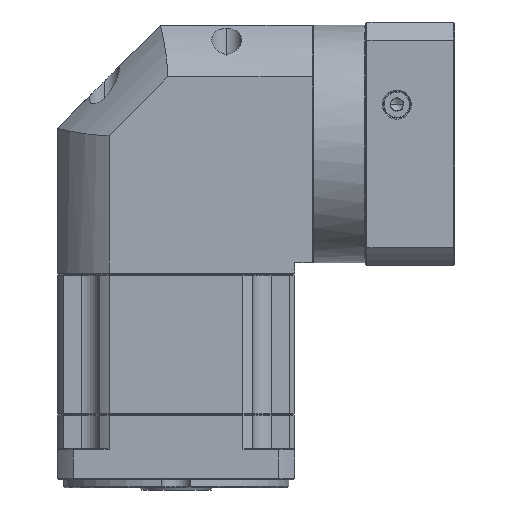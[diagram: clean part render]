
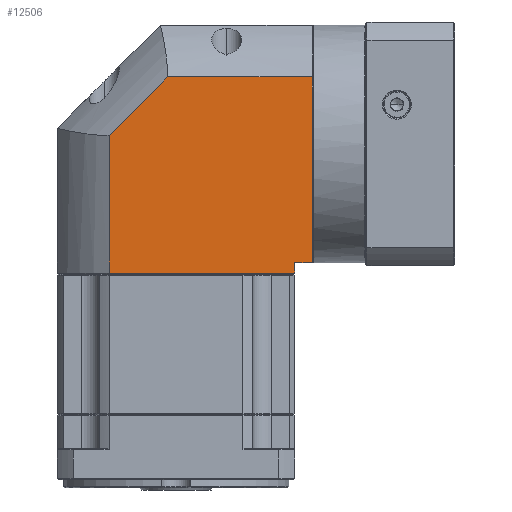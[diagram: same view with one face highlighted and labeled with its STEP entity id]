
A CAD part, front view. The second image highlights one B-rep face of the part: STEP entity #12506.
In plain terms, the highlighted planar face has unit normal (0, -1, 0).
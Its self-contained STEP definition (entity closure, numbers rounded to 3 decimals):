
#99 = VECTOR ( 'NONE', #111368, 1000. ) ;
#766 = CARTESIAN_POINT ( 'NONE',  ( 21.253, 28.176, -26.076 ) ) ;
#1373 = LINE ( 'NONE', #66263, #9334 ) ;
#6745 = LINE ( 'NONE', #37789, #131052 ) ;
#7898 = PLANE ( 'NONE',  #91502 ) ;
#7907 = CARTESIAN_POINT ( 'NONE',  ( 119.553, 28.176, -21.076 ) ) ;
#9334 = VECTOR ( 'NONE', #25271, 1000. ) ;
#9661 = VERTEX_POINT ( 'NONE', #54157 ) ;
#12506 = ADVANCED_FACE ( 'NONE', ( #60490 ), #7898, .F. ) ;
#14639 = EDGE_LOOP ( 'NONE', ( #51358, #57372, #100758, #48227, #39246, #83841, #22843 ) ) ;
#14642 = DIRECTION ( 'NONE',  ( 0., 0., 1. ) ) ;
#22843 = ORIENTED_EDGE ( 'NONE', *, *, #125734, .F. ) ;
#23778 = DIRECTION ( 'NONE',  ( 0., 0., -1. ) ) ;
#25271 = DIRECTION ( 'NONE',  ( 0., 0., -1. ) ) ;
#27274 = LINE ( 'NONE', #90953, #99 ) ;
#29556 = VERTEX_POINT ( 'NONE', #106502 ) ;
#30704 = VERTEX_POINT ( 'NONE', #110546 ) ;
#37789 = CARTESIAN_POINT ( 'NONE',  ( 21.253, 28.176, 40.486 ) ) ;
#38785 = LINE ( 'NONE', #90439, #113714 ) ;
#39246 = ORIENTED_EDGE ( 'NONE', *, *, #88549, .F. ) ;
#39331 = EDGE_CURVE ( 'NONE', #131781, #9661, #85951, .T. ) ;
#41352 = DIRECTION ( 'NONE',  ( -1., 0., 0. ) ) ;
#43375 = VERTEX_POINT ( 'NONE', #101184 ) ;
#43866 = CARTESIAN_POINT ( 'NONE',  ( 111.153, 28.176, -32.576 ) ) ;
#48227 = ORIENTED_EDGE ( 'NONE', *, *, #66635, .F. ) ;
#50768 = VECTOR ( 'NONE', #14642, 1000. ) ;
#51358 = ORIENTED_EDGE ( 'NONE', *, *, #110262, .F. ) ;
#54157 = CARTESIAN_POINT ( 'NONE',  ( 111.153, 28.176, -21.076 ) ) ;
#57372 = ORIENTED_EDGE ( 'NONE', *, *, #39331, .F. ) ;
#57636 = EDGE_CURVE ( 'NONE', #30704, #131781, #1373, .T. ) ;
#60490 = FACE_OUTER_BOUND ( 'NONE', #14639, .T. ) ;
#62100 = CARTESIAN_POINT ( 'NONE',  ( -3.847, 28.176, -21.076 ) ) ;
#62966 = DIRECTION ( 'NONE',  ( -1., 0., 0. ) ) ;
#65080 = LINE ( 'NONE', #75766, #50768 ) ;
#66263 = CARTESIAN_POINT ( 'NONE',  ( 119.553, 28.176, -32.576 ) ) ;
#66635 = EDGE_CURVE ( 'NONE', #43375, #30704, #27274, .T. ) ;
#69863 = DIRECTION ( 'NONE',  ( 0., 1., 0. ) ) ;
#75766 = CARTESIAN_POINT ( 'NONE',  ( 21.253, 28.176, -32.576 ) ) ;
#78285 = VERTEX_POINT ( 'NONE', #766 ) ;
#79276 = DIRECTION ( 'NONE',  ( 1., 0., 0. ) ) ;
#82717 = VECTOR ( 'NONE', #62966, 1000. ) ;
#83841 = ORIENTED_EDGE ( 'NONE', *, *, #87134, .F. ) ;
#85951 = LINE ( 'NONE', #62100, #82717 ) ;
#87134 = EDGE_CURVE ( 'NONE', #78285, #91423, #65080, .T. ) ;
#88549 = EDGE_CURVE ( 'NONE', #91423, #43375, #6745, .T. ) ;
#90439 = CARTESIAN_POINT ( 'NONE',  ( -3.847, 28.176, -26.076 ) ) ;
#90953 = CARTESIAN_POINT ( 'NONE',  ( -3.847, 28.176, 68.824 ) ) ;
#91423 = VERTEX_POINT ( 'NONE', #94712 ) ;
#91502 = AXIS2_PLACEMENT_3D ( 'NONE', #129991, #69863, #79276 ) ;
#94378 = LINE ( 'NONE', #43866, #130996 ) ;
#94712 = CARTESIAN_POINT ( 'NONE',  ( 21.253, 28.176, 40.486 ) ) ;
#97123 = DIRECTION ( 'NONE',  ( 0.707, 0., 0.707 ) ) ;
#100758 = ORIENTED_EDGE ( 'NONE', *, *, #57636, .F. ) ;
#101184 = CARTESIAN_POINT ( 'NONE',  ( 49.591, 28.176, 68.824 ) ) ;
#106502 = CARTESIAN_POINT ( 'NONE',  ( 111.153, 28.176, -26.076 ) ) ;
#110262 = EDGE_CURVE ( 'NONE', #9661, #29556, #94378, .T. ) ;
#110546 = CARTESIAN_POINT ( 'NONE',  ( 119.553, 28.176, 68.824 ) ) ;
#111368 = DIRECTION ( 'NONE',  ( 1., 0., 0. ) ) ;
#113714 = VECTOR ( 'NONE', #41352, 1000. ) ;
#125734 = EDGE_CURVE ( 'NONE', #29556, #78285, #38785, .T. ) ;
#129991 = CARTESIAN_POINT ( 'NONE',  ( -3.847, 28.176, -32.576 ) ) ;
#130996 = VECTOR ( 'NONE', #23778, 1000. ) ;
#131052 = VECTOR ( 'NONE', #97123, 1000. ) ;
#131781 = VERTEX_POINT ( 'NONE', #7907 ) ;
